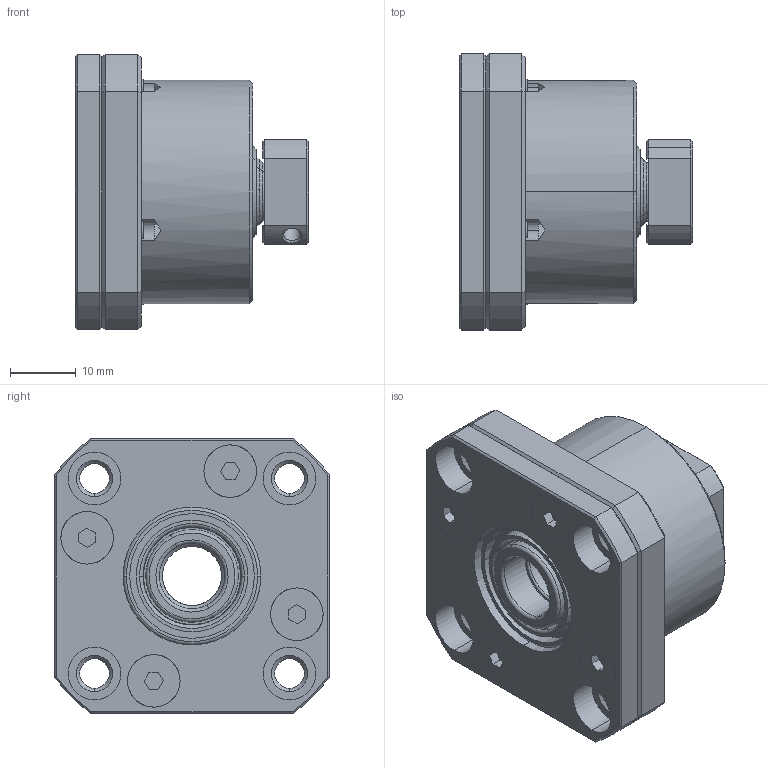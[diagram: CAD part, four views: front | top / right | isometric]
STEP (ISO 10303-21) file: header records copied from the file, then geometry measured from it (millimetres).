
FILE_DESCRIPTION (( 'STEP AP203' ), '1' );
FILE_NAME ('FK10²Õ¦XB.STEP', '2017-12-28T05:36:41', ( '' ), ( '' ), 'SwSTEP 2.0', 'SolidWorks 2017', '' );
FILE_SCHEMA (( 'CONFIG_CONTROL_DESIGN' ));
Length unit declared in the file: millimetre
Products named in the file (1): FK10組合B
Bounding box: 35.5 x 42 x 42 mm (x, y, z)
Surface area: 12979.6 mm2 (no closed solid volume)
Topology: 0 solids, 19 shells, 247 faces, 655 edges, 427 vertices
Faces by surface type: plane 84, cylinder 71, cone 68, torus 20, bspline 4
Entity records: 8320 total; most frequent: CARTESIAN_POINT 2035, DIRECTION 1376, ORIENTED_EDGE 1169, EDGE_CURVE 655, AXIS2_PLACEMENT_3D 562, VERTEX_POINT 427, CIRCLE 318, EDGE_LOOP 298
